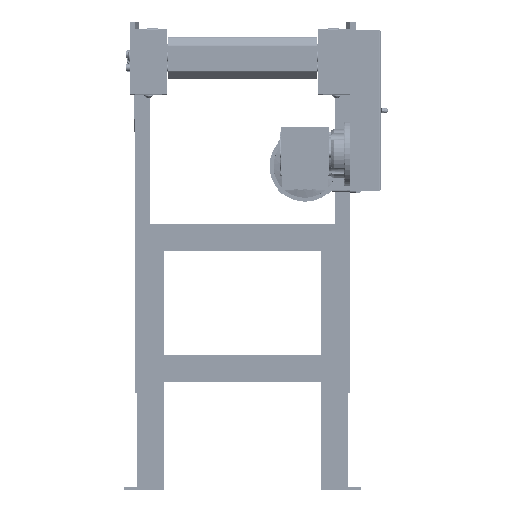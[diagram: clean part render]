
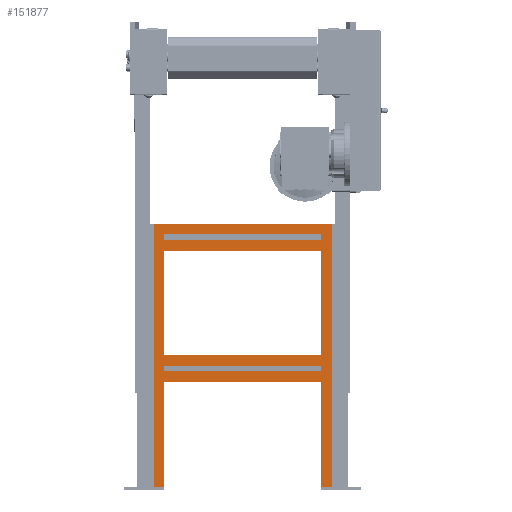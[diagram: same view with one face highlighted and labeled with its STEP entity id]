
A CAD part, front view. The second image highlights one B-rep face of the part: STEP entity #151877.
In plain terms, the highlighted planar face has unit normal (0, -1, 0).
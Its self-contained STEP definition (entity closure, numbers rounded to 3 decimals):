
#5228=FACE_BOUND('',#26291,.T.);
#5229=FACE_BOUND('',#26292,.T.);
#5230=FACE_BOUND('',#26293,.T.);
#18473=FACE_OUTER_BOUND('',#26290,.T.);
#26290=EDGE_LOOP('',(#97610,#97611,#97612,#97613,#97614,#97615,#97616,#97617));
#26291=EDGE_LOOP('',(#97618,#97619,#97620,#97621));
#26292=EDGE_LOOP('',(#97622,#97623,#97624,#97625));
#26293=EDGE_LOOP('',(#97626,#97627,#97628,#97629));
#36943=LINE('',#226532,#47753);
#37019=LINE('',#226700,#47829);
#37025=LINE('',#226714,#47835);
#37041=LINE('',#226747,#47851);
#37065=LINE('',#226798,#47875);
#37205=LINE('',#227076,#48015);
#37232=LINE('',#227129,#48042);
#37258=LINE('',#227178,#48068);
#37270=LINE('',#227202,#48080);
#37273=LINE('',#227208,#48083);
#37320=LINE('',#227301,#48130);
#37324=LINE('',#227309,#48134);
#37327=LINE('',#227314,#48137);
#37336=LINE('',#227329,#48146);
#37347=LINE('',#227351,#48157);
#37359=LINE('',#227375,#48169);
#37401=LINE('',#227456,#48211);
#37405=LINE('',#227463,#48215);
#37473=LINE('',#227595,#48283);
#37474=LINE('',#227597,#48284);
#47753=VECTOR('',#178989,19.95);
#47829=VECTOR('',#179119,194.5);
#47835=VECTOR('',#179129,10.1);
#47851=VECTOR('',#179149,194.5);
#47875=VECTOR('',#179183,10.1);
#48015=VECTOR('',#179397,489.);
#48042=VECTOR('',#179444,19.95);
#48068=VECTOR('',#179502,291.);
#48080=VECTOR('',#179526,291.);
#48083=VECTOR('',#179531,291.);
#48130=VECTOR('',#179618,291.);
#48134=VECTOR('',#179628,194.5);
#48137=VECTOR('',#179633,10.1);
#48146=VECTOR('',#179650,194.5);
#48157=VECTOR('',#179667,291.);
#48169=VECTOR('',#179691,291.);
#48211=VECTOR('',#179771,291.);
#48215=VECTOR('',#179781,10.1);
#48283=VECTOR('',#179919,489.);
#48284=VECTOR('',#179922,330.9);
#58304=VERTEX_POINT('',#226530);
#58305=VERTEX_POINT('',#226531);
#58367=VERTEX_POINT('',#226693);
#58370=VERTEX_POINT('',#226698);
#58375=VERTEX_POINT('',#226711);
#58376=VERTEX_POINT('',#226713);
#58390=VERTEX_POINT('',#226744);
#58391=VERTEX_POINT('',#226746);
#58411=VERTEX_POINT('',#226794);
#58413=VERTEX_POINT('',#226797);
#58513=VERTEX_POINT('',#227072);
#58514=VERTEX_POINT('',#227074);
#58537=VERTEX_POINT('',#227175);
#58543=VERTEX_POINT('',#227200);
#58545=VERTEX_POINT('',#227205);
#58570=VERTEX_POINT('',#227298);
#58572=VERTEX_POINT('',#227308);
#58583=VERTEX_POINT('',#227348);
#58589=VERTEX_POINT('',#227373);
#58638=VERTEX_POINT('',#227593);
#73456=EDGE_CURVE('',#58304,#58305,#36943,.T.);
#73542=EDGE_CURVE('',#58367,#58370,#37019,.T.);
#73548=EDGE_CURVE('',#58376,#58375,#37025,.T.);
#73564=EDGE_CURVE('',#58391,#58390,#37041,.T.);
#73588=EDGE_CURVE('',#58413,#58411,#37065,.T.);
#73728=EDGE_CURVE('',#58514,#58513,#37205,.T.);
#73755=EDGE_CURVE('',#58514,#58391,#37232,.T.);
#73783=EDGE_CURVE('',#58376,#58537,#37258,.T.);
#73795=EDGE_CURVE('',#58375,#58543,#37270,.T.);
#73798=EDGE_CURVE('',#58367,#58545,#37273,.T.);
#73845=EDGE_CURVE('',#58390,#58570,#37320,.T.);
#73849=EDGE_CURVE('',#58545,#58572,#37324,.T.);
#73852=EDGE_CURVE('',#58537,#58543,#37327,.T.);
#73861=EDGE_CURVE('',#58305,#58570,#37336,.T.);
#73872=EDGE_CURVE('',#58413,#58583,#37347,.T.);
#73884=EDGE_CURVE('',#58411,#58589,#37359,.T.);
#73926=EDGE_CURVE('',#58370,#58572,#37401,.T.);
#73930=EDGE_CURVE('',#58583,#58589,#37405,.T.);
#73998=EDGE_CURVE('',#58304,#58638,#37473,.T.);
#73999=EDGE_CURVE('',#58513,#58638,#37474,.T.);
#97610=ORIENTED_EDGE('',*,*,#73845,.T.);
#97611=ORIENTED_EDGE('',*,*,#73861,.F.);
#97612=ORIENTED_EDGE('',*,*,#73456,.F.);
#97613=ORIENTED_EDGE('',*,*,#73998,.T.);
#97614=ORIENTED_EDGE('',*,*,#73999,.F.);
#97615=ORIENTED_EDGE('',*,*,#73728,.F.);
#97616=ORIENTED_EDGE('',*,*,#73755,.T.);
#97617=ORIENTED_EDGE('',*,*,#73564,.T.);
#97618=ORIENTED_EDGE('',*,*,#73795,.T.);
#97619=ORIENTED_EDGE('',*,*,#73852,.F.);
#97620=ORIENTED_EDGE('',*,*,#73783,.F.);
#97621=ORIENTED_EDGE('',*,*,#73548,.T.);
#97622=ORIENTED_EDGE('',*,*,#73884,.T.);
#97623=ORIENTED_EDGE('',*,*,#73930,.F.);
#97624=ORIENTED_EDGE('',*,*,#73872,.F.);
#97625=ORIENTED_EDGE('',*,*,#73588,.T.);
#97626=ORIENTED_EDGE('',*,*,#73798,.F.);
#97627=ORIENTED_EDGE('',*,*,#73542,.T.);
#97628=ORIENTED_EDGE('',*,*,#73926,.T.);
#97629=ORIENTED_EDGE('',*,*,#73849,.F.);
#140245=PLANE('',#159728);
#151877=ADVANCED_FACE('',(#18473,#5228,#5229,#5230),#140245,.T.);
#159728=AXIS2_PLACEMENT_3D('',#227596,#179920,#179921);
#178989=DIRECTION('',(-1.,0.,0.));
#179119=DIRECTION('',(0.,0.,1.));
#179129=DIRECTION('',(0.,0.,1.));
#179149=DIRECTION('',(0.,0.,1.));
#179183=DIRECTION('',(0.,0.,1.));
#179397=DIRECTION('',(0.,0.,1.));
#179444=DIRECTION('',(1.,0.,0.));
#179502=DIRECTION('',(1.,0.,0.));
#179526=DIRECTION('',(1.,0.,0.));
#179531=DIRECTION('',(1.,0.,0.));
#179618=DIRECTION('',(1.,0.,0.));
#179628=DIRECTION('',(0.,0.,1.));
#179633=DIRECTION('',(0.,0.,1.));
#179650=DIRECTION('',(0.,0.,1.));
#179667=DIRECTION('',(1.,0.,0.));
#179691=DIRECTION('',(1.,0.,0.));
#179771=DIRECTION('',(1.,0.,0.));
#179781=DIRECTION('',(0.,0.,1.));
#179919=DIRECTION('',(0.,0.,1.));
#179920=DIRECTION('center_axis',(0.,-1.,0.));
#179921=DIRECTION('ref_axis',(0.,0.,-1.));
#179922=DIRECTION('',(1.,0.,0.));
#226530=CARTESIAN_POINT('',(165.45,-345.,6.));
#226531=CARTESIAN_POINT('',(145.5,-345.,6.));
#226532=CARTESIAN_POINT('',(174.225,-345.,6.));
#226693=CARTESIAN_POINT('',(-145.5,-345.,250.5));
#226698=CARTESIAN_POINT('',(-145.5,-345.,445.));
#226700=CARTESIAN_POINT('',(-145.5,-345.,6.));
#226711=CARTESIAN_POINT('',(-145.5,-345.,230.55));
#226713=CARTESIAN_POINT('',(-145.5,-345.,220.45));
#226714=CARTESIAN_POINT('',(-145.5,-345.,6.));
#226744=CARTESIAN_POINT('',(-145.5,-345.,200.5));
#226746=CARTESIAN_POINT('',(-145.5,-345.,6.));
#226747=CARTESIAN_POINT('',(-145.5,-345.,6.));
#226794=CARTESIAN_POINT('',(-145.5,-345.,475.05));
#226797=CARTESIAN_POINT('',(-145.5,-345.,464.95));
#226798=CARTESIAN_POINT('',(-145.5,-345.,6.));
#227072=CARTESIAN_POINT('',(-165.45,-345.,495.));
#227074=CARTESIAN_POINT('',(-165.45,-345.,6.));
#227076=CARTESIAN_POINT('',(-165.45,-345.,6.));
#227129=CARTESIAN_POINT('',(-174.225,-345.,6.));
#227175=CARTESIAN_POINT('',(145.5,-345.,220.45));
#227178=CARTESIAN_POINT('',(0.,-345.,220.45));
#227200=CARTESIAN_POINT('',(145.5,-345.,230.55));
#227202=CARTESIAN_POINT('',(0.,-345.,230.55));
#227205=CARTESIAN_POINT('',(145.5,-345.,250.5));
#227208=CARTESIAN_POINT('',(0.,-345.,250.5));
#227298=CARTESIAN_POINT('',(145.5,-345.,200.5));
#227301=CARTESIAN_POINT('',(0.,-345.,200.5));
#227308=CARTESIAN_POINT('',(145.5,-345.,445.));
#227309=CARTESIAN_POINT('',(145.5,-345.,6.));
#227314=CARTESIAN_POINT('',(145.5,-345.,6.));
#227329=CARTESIAN_POINT('',(145.5,-345.,6.));
#227348=CARTESIAN_POINT('',(145.5,-345.,464.95));
#227351=CARTESIAN_POINT('',(0.,-345.,464.95));
#227373=CARTESIAN_POINT('',(145.5,-345.,475.05));
#227375=CARTESIAN_POINT('',(0.,-345.,475.05));
#227456=CARTESIAN_POINT('',(0.,-345.,445.));
#227463=CARTESIAN_POINT('',(145.5,-345.,6.));
#227593=CARTESIAN_POINT('',(165.45,-345.,495.));
#227595=CARTESIAN_POINT('',(165.45,-345.,6.));
#227596=CARTESIAN_POINT('Origin',(165.45,-345.,6.));
#227597=CARTESIAN_POINT('',(0.,-345.,495.));
